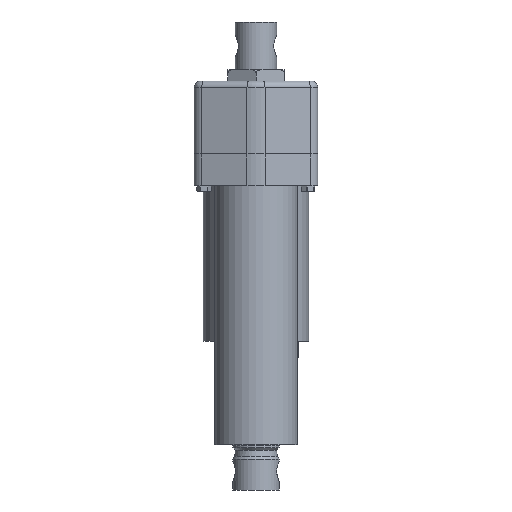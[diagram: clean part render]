
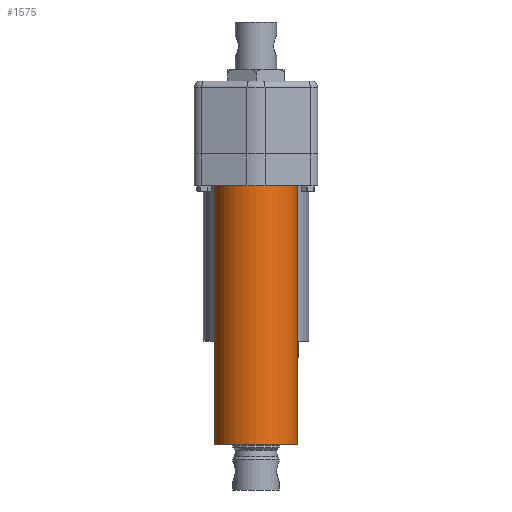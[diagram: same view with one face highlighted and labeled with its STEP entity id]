
A CAD part, front view. The second image highlights one B-rep face of the part: STEP entity #1575.
In plain terms, the highlighted cylindrical face has radius 25.5 mm (diameter 51 mm), a full revolution.
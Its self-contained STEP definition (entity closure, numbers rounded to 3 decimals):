
#142 = DIRECTION ( 'NONE',  ( 1., 0., 0. ) ) ;
#147 = CARTESIAN_POINT ( 'NONE',  ( 0., 0., -72.125 ) ) ;
#148 = DIRECTION ( 'NONE',  ( 0., 0., 1. ) ) ;
#685 = CARTESIAN_POINT ( 'NONE',  ( 0., 0., 159.7 ) ) ;
#691 = DIRECTION ( 'NONE',  ( 0., 0., 1. ) ) ;
#692 = DIRECTION ( 'NONE',  ( 1., 0., 0. ) ) ;
#1507 = CARTESIAN_POINT ( 'NONE',  ( 0., 0., 0. ) ) ;
#1535 = DIRECTION ( 'NONE',  ( 0., 0., -1. ) ) ;
#1538 = DIRECTION ( 'NONE',  ( 1., 0., 0. ) ) ;
#1554 = EDGE_CURVE ( 'NONE', #2392, #2392, #2874, .T. ) ;
#1575 = ADVANCED_FACE ( 'NONE', ( #2909, #2904 ), #2902, .T. ) ;
#2392 = VERTEX_POINT ( 'NONE', #2393 ) ;
#2393 = CARTESIAN_POINT ( 'NONE',  ( 25.5, 0., 0. ) ) ;
#2408 = VERTEX_POINT ( 'NONE', #2409 ) ;
#2409 = CARTESIAN_POINT ( 'NONE',  ( 25.5, 0., 159.7 ) ) ;
#2874 = CIRCLE ( 'NONE', #4448, 25.5 ) ;
#2902 = CYLINDRICAL_SURFACE ( 'NONE', #4462, 25.5 ) ;
#2904 = FACE_OUTER_BOUND ( 'NONE', #3533, .T. ) ;
#2909 = FACE_OUTER_BOUND ( 'NONE', #3609, .T. ) ;
#3023 = EDGE_CURVE ( 'NONE', #2408, #2408, #4294, .T. ) ;
#3533 = EDGE_LOOP ( 'NONE', ( #3882 ) ) ;
#3609 = EDGE_LOOP ( 'NONE', ( #3878 ) ) ;
#3878 = ORIENTED_EDGE ( 'NONE', *, *, #1554, .F. ) ;
#3882 = ORIENTED_EDGE ( 'NONE', *, *, #3023, .F. ) ;
#4294 = CIRCLE ( 'NONE', #4583, 25.5 ) ;
#4448 = AXIS2_PLACEMENT_3D ( 'NONE', #1507, #1535, #1538 ) ;
#4462 = AXIS2_PLACEMENT_3D ( 'NONE', #147, #148, #142 ) ;
#4583 = AXIS2_PLACEMENT_3D ( 'NONE', #685, #691, #692 ) ;
